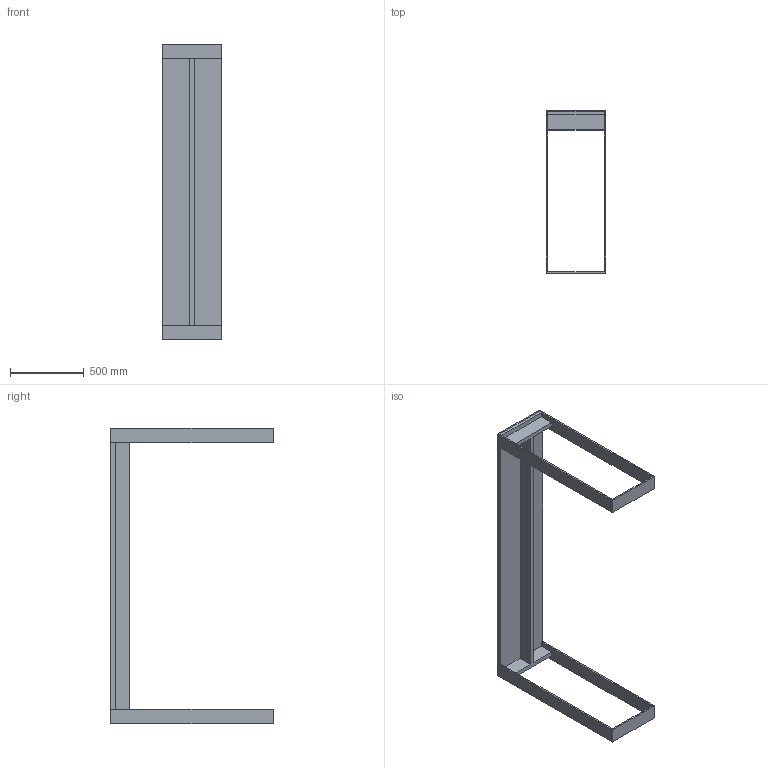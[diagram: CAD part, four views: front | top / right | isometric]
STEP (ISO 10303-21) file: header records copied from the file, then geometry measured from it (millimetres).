
FILE_DESCRIPTION (( 'STEP AP203' ), '1' );
FILE_NAME ('Haag 2000x400x1100.STEP', '2019-04-02T18:03:54', ( '' ), ( '' ), 'SwSTEP 2.0', 'SolidWorks 2019', '' );
FILE_SCHEMA (( 'CONFIG_CONTROL_DESIGN' ));
Length unit declared in the file: millimetre
Products named in the file (1): Haag 2000x400x1100
Bounding box: 400 x 1100 x 2000 mm (x, y, z)
Volume: 36930000 mm3; surface area: 3724200 mm2
Topology: 4 solids, 4 shells, 48 faces, 120 edges, 80 vertices
Faces by surface type: plane 48
Entity records: 1483 total; most frequent: CARTESIAN_POINT 249, ORIENTED_EDGE 240, DIRECTION 218, VECTOR 120, LINE 120, EDGE_CURVE 120, VERTEX_POINT 80, EDGE_LOOP 52
